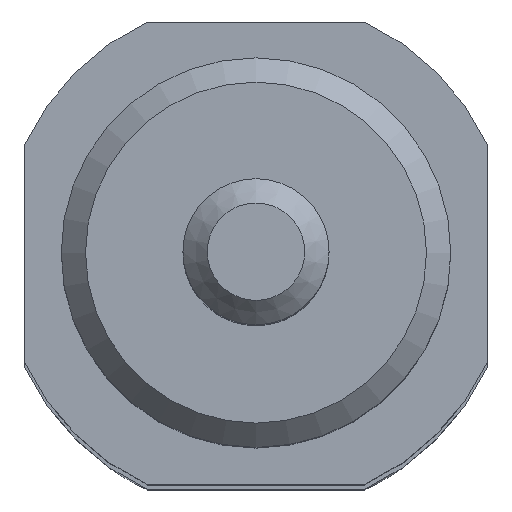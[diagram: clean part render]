
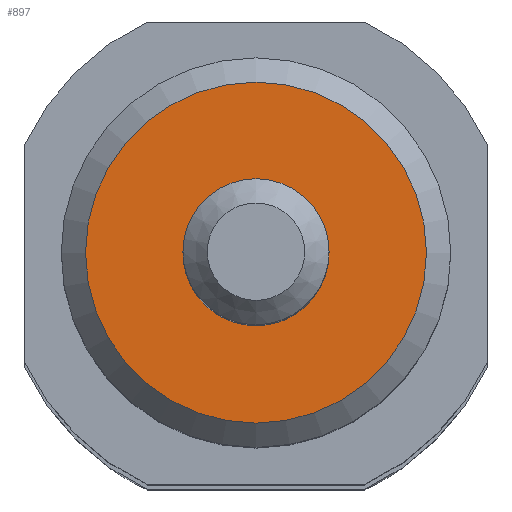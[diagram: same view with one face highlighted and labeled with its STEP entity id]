
A CAD part, top view. The second image highlights one B-rep face of the part: STEP entity #897.
In plain terms, the highlighted planar face has unit normal (0, 0, 1).
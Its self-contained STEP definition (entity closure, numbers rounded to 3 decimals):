
#835=CARTESIAN_POINT('',(7.,0.,158.0));
#836=VERTEX_POINT('',#835);
#837=CARTESIAN_POINT('',(0.,0.,158.0));
#838=DIRECTION('',(0.0,0.0,-1.0));
#839=DIRECTION('',(-1.0,0.0,0.0));
#840=AXIS2_PLACEMENT_3D('',#837,#838,#839);
#841=CIRCLE('',#840,7.);
#842=EDGE_CURVE('',#836,#836,#841,.T.);
#878=CARTESIAN_POINT('',(0.,0.,158.0));
#879=DIRECTION('',(0.0,0.0,-1.0));
#880=DIRECTION('',(-1.0,0.0,0.0));
#881=AXIS2_PLACEMENT_3D('',#878,#879,#880);
#882=PLANE('',#881);
#883=ORIENTED_EDGE('',*,*,#842,.F.);
#884=EDGE_LOOP('',(#883));
#885=FACE_OUTER_BOUND('',#884,.T.);
#886=CARTESIAN_POINT('',(3.,0.,158.0));
#887=VERTEX_POINT('',#886);
#888=CARTESIAN_POINT('',(0.,0.,158.0));
#889=DIRECTION('',(0.0,0.0,-1.0));
#890=DIRECTION('',(-1.0,0.0,0.0));
#891=AXIS2_PLACEMENT_3D('',#888,#889,#890);
#892=CIRCLE('',#891,3.);
#893=EDGE_CURVE('',#887,#887,#892,.T.);
#894=ORIENTED_EDGE('',*,*,#893,.T.);
#895=EDGE_LOOP('',(#894));
#896=FACE_BOUND('',#895,.T.);
#897=ADVANCED_FACE('',(#885,#896),#882,.F.);
